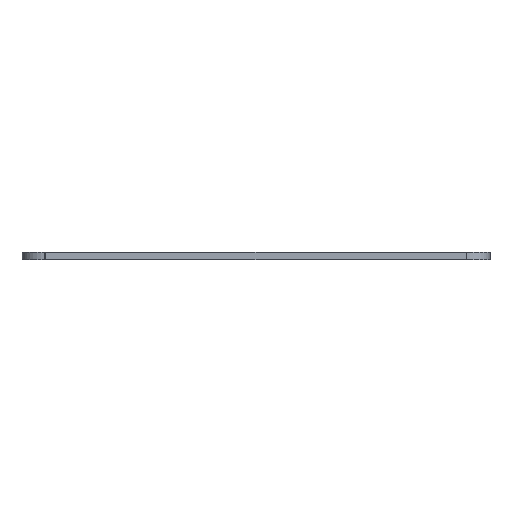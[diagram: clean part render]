
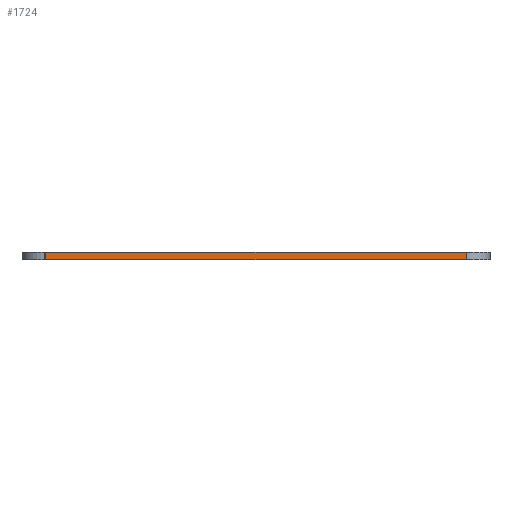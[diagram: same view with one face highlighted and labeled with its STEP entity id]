
A CAD part, front view. The second image highlights one B-rep face of the part: STEP entity #1724.
In plain terms, the highlighted planar face has unit normal (0, -1, 0).
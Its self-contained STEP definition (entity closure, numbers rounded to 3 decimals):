
#188 = VERTEX_POINT('',#189);
#189 = CARTESIAN_POINT('',(101.5,-118.,0.));
#195 = EDGE_CURVE('',#196,#188,#198,.T.);
#196 = VERTEX_POINT('',#197);
#197 = CARTESIAN_POINT('',(190.,-118.,0.));
#198 = LINE('',#199,#200);
#199 = CARTESIAN_POINT('',(190.,-118.,0.));
#200 = VECTOR('',#201,1.);
#201 = DIRECTION('',(-1.,0.,0.));
#938 = VERTEX_POINT('',#939);
#939 = CARTESIAN_POINT('',(101.5,-118.,1.6));
#945 = EDGE_CURVE('',#946,#938,#948,.T.);
#946 = VERTEX_POINT('',#947);
#947 = CARTESIAN_POINT('',(190.,-118.,1.6));
#948 = LINE('',#949,#950);
#949 = CARTESIAN_POINT('',(190.,-118.,1.6));
#950 = VECTOR('',#951,1.);
#951 = DIRECTION('',(-1.,0.,0.));
#1696 = EDGE_CURVE('',#196,#946,#1697,.T.);
#1697 = LINE('',#1698,#1699);
#1698 = CARTESIAN_POINT('',(190.,-118.,0.));
#1699 = VECTOR('',#1700,1.);
#1700 = DIRECTION('',(0.,0.,1.));
#1724 = ADVANCED_FACE('',(#1725),#1736,.T.);
#1725 = FACE_BOUND('',#1726,.T.);
#1726 = EDGE_LOOP('',(#1727,#1728,#1729,#1735));
#1727 = ORIENTED_EDGE('',*,*,#1696,.T.);
#1728 = ORIENTED_EDGE('',*,*,#945,.T.);
#1729 = ORIENTED_EDGE('',*,*,#1730,.F.);
#1730 = EDGE_CURVE('',#188,#938,#1731,.T.);
#1731 = LINE('',#1732,#1733);
#1732 = CARTESIAN_POINT('',(101.5,-118.,0.));
#1733 = VECTOR('',#1734,1.);
#1734 = DIRECTION('',(0.,0.,1.));
#1735 = ORIENTED_EDGE('',*,*,#195,.F.);
#1736 = PLANE('',#1737);
#1737 = AXIS2_PLACEMENT_3D('',#1738,#1739,#1740);
#1738 = CARTESIAN_POINT('',(190.,-118.,0.));
#1739 = DIRECTION('',(0.,-1.,0.));
#1740 = DIRECTION('',(-1.,0.,0.));
